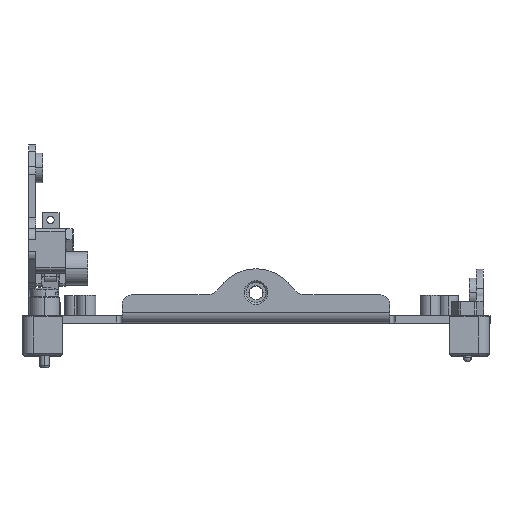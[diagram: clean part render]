
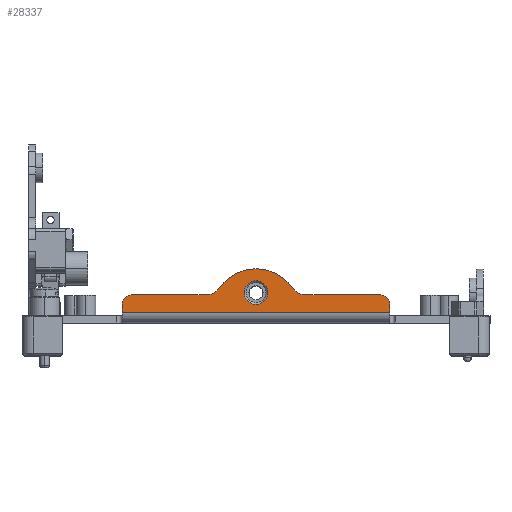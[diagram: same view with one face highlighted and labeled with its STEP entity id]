
A CAD part, top view. The second image highlights one B-rep face of the part: STEP entity #28337.
In plain terms, the highlighted planar face has unit normal (0, 0, 1).
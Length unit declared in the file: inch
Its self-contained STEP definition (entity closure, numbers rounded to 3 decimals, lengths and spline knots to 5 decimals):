
#471 = CARTESIAN_POINT ( 'NONE',  ( 1.1261, 0.15622, 1.9135 ) ) ;
#799 = CARTESIAN_POINT ( 'NONE',  ( 0., 0.25591, 1.9135 ) ) ;
#938 = CARTESIAN_POINT ( 'NONE',  ( 0.42028, 0.23622, 1.9135 ) ) ;
#1436 = CARTESIAN_POINT ( 'NONE',  ( 0.42028, 0.37307, 1.9135 ) ) ;
#1927 = LINE ( 'NONE', #938, #17248 ) ;
#2066 = DIRECTION ( 'NONE',  ( 0., 0., 1. ) ) ;
#2080 = EDGE_LOOP ( 'NONE', ( #21682, #26455, #33803, #8420, #16103, #12373, #30102, #31852, #32307, #31983 ) ) ;
#2185 = DIRECTION ( 'NONE',  ( 0., 0., 1. ) ) ;
#2341 = CARTESIAN_POINT ( 'NONE',  ( -0.09866, 0.25591, 1.9135 ) ) ;
#2547 = VERTEX_POINT ( 'NONE', #24408 ) ;
#2617 = CARTESIAN_POINT ( 'NONE',  ( 1.1261, 0.09, 1.9135 ) ) ;
#2785 = AXIS2_PLACEMENT_3D ( 'NONE', #10240, #31627, #13352 ) ;
#2822 = CARTESIAN_POINT ( 'NONE',  ( -1.0461, 0.23622, 1.9135 ) ) ;
#3116 = DIRECTION ( 'NONE',  ( 0., 0., 1. ) ) ;
#3728 = VERTEX_POINT ( 'NONE', #2341 ) ;
#3888 = DIRECTION ( 'NONE',  ( -1., 0., 0. ) ) ;
#4037 = VERTEX_POINT ( 'NONE', #25466 ) ;
#4501 = DIRECTION ( 'NONE',  ( -1., 0., 0. ) ) ;
#4576 = CARTESIAN_POINT ( 'NONE',  ( -0.30791, 0.29496, 1.9135 ) ) ;
#5076 = VERTEX_POINT ( 'NONE', #39715 ) ;
#5119 = PLANE ( 'NONE',  #37194 ) ;
#8420 = ORIENTED_EDGE ( 'NONE', *, *, #15082, .T. ) ;
#8604 = CARTESIAN_POINT ( 'NONE',  ( 0.30791, 0.29496, 1.9135 ) ) ;
#9260 = EDGE_CURVE ( 'NONE', #25225, #4037, #10290, .T. ) ;
#9761 = LINE ( 'NONE', #21925, #32201 ) ;
#10240 = CARTESIAN_POINT ( 'NONE',  ( 0., 0.08091, 1.9135 ) ) ;
#10290 = CIRCLE ( 'NONE', #37097, 0.08 ) ;
#10353 = AXIS2_PLACEMENT_3D ( 'NONE', #16226, #37615, #19291 ) ;
#11433 = ORIENTED_EDGE ( 'NONE', *, *, #16547, .T. ) ;
#11798 = VERTEX_POINT ( 'NONE', #19239 ) ;
#11939 = AXIS2_PLACEMENT_3D ( 'NONE', #1436, #22827, #4501 ) ;
#12349 = CIRCLE ( 'NONE', #18470, 0.09866 ) ;
#12373 = ORIENTED_EDGE ( 'NONE', *, *, #36586, .T. ) ;
#13352 = DIRECTION ( 'NONE',  ( -1., 0., 0. ) ) ;
#13546 = CARTESIAN_POINT ( 'NONE',  ( 0., 0.25591, 1.9135 ) ) ;
#14373 = CARTESIAN_POINT ( 'NONE',  ( -1.9135, 0., 1.9135 ) ) ;
#14404 = CARTESIAN_POINT ( 'NONE',  ( -1.1261, 0.23622, 1.9135 ) ) ;
#14565 = VECTOR ( 'NONE', #36991, 39.37008 ) ;
#15082 = EDGE_CURVE ( 'NONE', #18408, #11798, #28362, .T. ) ;
#15804 = DIRECTION ( 'NONE',  ( 0., 1., 0. ) ) ;
#15938 = VECTOR ( 'NONE', #36555, 39.37008 ) ;
#16103 = ORIENTED_EDGE ( 'NONE', *, *, #30021, .F. ) ;
#16226 = CARTESIAN_POINT ( 'NONE',  ( -1.0461, 0.15622, 1.9135 ) ) ;
#16547 = EDGE_CURVE ( 'NONE', #3728, #2547, #28706, .T. ) ;
#16564 = EDGE_LOOP ( 'NONE', ( #11433, #31501 ) ) ;
#16622 = DIRECTION ( 'NONE',  ( -1., 0., 0. ) ) ;
#16629 = FACE_BOUND ( 'NONE', #16564, .T. ) ;
#17248 = VECTOR ( 'NONE', #22361, 39.37008 ) ;
#18119 = EDGE_CURVE ( 'NONE', #2547, #3728, #12349, .T. ) ;
#18408 = VERTEX_POINT ( 'NONE', #32748 ) ;
#18410 = AXIS2_PLACEMENT_3D ( 'NONE', #13546, #34919, #16622 ) ;
#18470 = AXIS2_PLACEMENT_3D ( 'NONE', #799, #22224, #3888 ) ;
#19239 = CARTESIAN_POINT ( 'NONE',  ( -1.1261, 0.09, 1.9135 ) ) ;
#19291 = DIRECTION ( 'NONE',  ( -1., 0., 0. ) ) ;
#19666 = EDGE_CURVE ( 'NONE', #36215, #26139, #30298, .T. ) ;
#20316 = VERTEX_POINT ( 'NONE', #37363 ) ;
#20391 = CARTESIAN_POINT ( 'NONE',  ( -0.42028, 0.37307, 1.9135 ) ) ;
#21226 = VECTOR ( 'NONE', #35803, 39.37008 ) ;
#21462 = CARTESIAN_POINT ( 'NONE',  ( 1.0461, 0.15622, 1.9135 ) ) ;
#21471 = CARTESIAN_POINT ( 'NONE',  ( -1.1261, 0.09, 1.9135 ) ) ;
#21577 = EDGE_CURVE ( 'NONE', #4037, #20316, #1927, .T. ) ;
#21632 = CIRCLE ( 'NONE', #10353, 0.08 ) ;
#21682 = ORIENTED_EDGE ( 'NONE', *, *, #35650, .F. ) ;
#21701 = CIRCLE ( 'NONE', #11939, 0.13685 ) ;
#21925 = CARTESIAN_POINT ( 'NONE',  ( 1.1261, 0., 1.9135 ) ) ;
#22224 = DIRECTION ( 'NONE',  ( 0., 0., -1. ) ) ;
#22326 = VERTEX_POINT ( 'NONE', #2617 ) ;
#22361 = DIRECTION ( 'NONE',  ( -1., 0., 0. ) ) ;
#22676 = LINE ( 'NONE', #21471, #14565 ) ;
#22827 = DIRECTION ( 'NONE',  ( 0., 0., 1. ) ) ;
#23489 = DIRECTION ( 'NONE',  ( -1., 0., 0. ) ) ;
#23593 = DIRECTION ( 'NONE',  ( -1., 0., 0. ) ) ;
#24134 = AXIS2_PLACEMENT_3D ( 'NONE', #20391, #2066, #23489 ) ;
#24408 = CARTESIAN_POINT ( 'NONE',  ( 0.09866, 0.25591, 1.9135 ) ) ;
#24550 = DIRECTION ( 'NONE',  ( -1., 0., 0. ) ) ;
#25225 = VERTEX_POINT ( 'NONE', #471 ) ;
#25466 = CARTESIAN_POINT ( 'NONE',  ( 1.0461, 0.23622, 1.9135 ) ) ;
#26139 = VERTEX_POINT ( 'NONE', #8604 ) ;
#26455 = ORIENTED_EDGE ( 'NONE', *, *, #30408, .T. ) ;
#28337 = ADVANCED_FACE ( 'NONE', ( #16629, #32867 ), #5119, .T. ) ;
#28362 = LINE ( 'NONE', #14404, #21226 ) ;
#28706 = CIRCLE ( 'NONE', #18410, 0.09866 ) ;
#30021 = EDGE_CURVE ( 'NONE', #22326, #11798, #22676, .T. ) ;
#30102 = ORIENTED_EDGE ( 'NONE', *, *, #9260, .T. ) ;
#30298 = CIRCLE ( 'NONE', #2785, 0.375 ) ;
#30408 = EDGE_CURVE ( 'NONE', #5076, #32744, #39398, .T. ) ;
#30588 = EDGE_CURVE ( 'NONE', #32744, #18408, #21632, .T. ) ;
#31501 = ORIENTED_EDGE ( 'NONE', *, *, #18119, .T. ) ;
#31627 = DIRECTION ( 'NONE',  ( 0., 0., -1. ) ) ;
#31852 = ORIENTED_EDGE ( 'NONE', *, *, #21577, .T. ) ;
#31983 = ORIENTED_EDGE ( 'NONE', *, *, #19666, .F. ) ;
#32201 = VECTOR ( 'NONE', #15804, 39.37008 ) ;
#32307 = ORIENTED_EDGE ( 'NONE', *, *, #38948, .F. ) ;
#32744 = VERTEX_POINT ( 'NONE', #2822 ) ;
#32748 = CARTESIAN_POINT ( 'NONE',  ( -1.1261, 0.15622, 1.9135 ) ) ;
#32867 = FACE_OUTER_BOUND ( 'NONE', #2080, .T. ) ;
#33803 = ORIENTED_EDGE ( 'NONE', *, *, #30588, .T. ) ;
#34919 = DIRECTION ( 'NONE',  ( 0., 0., -1. ) ) ;
#35190 = CIRCLE ( 'NONE', #24134, 0.13685 ) ;
#35650 = EDGE_CURVE ( 'NONE', #5076, #36215, #35190, .T. ) ;
#35803 = DIRECTION ( 'NONE',  ( 0., -1., 0. ) ) ;
#36215 = VERTEX_POINT ( 'NONE', #4576 ) ;
#36555 = DIRECTION ( 'NONE',  ( -1., 0., 0. ) ) ;
#36586 = EDGE_CURVE ( 'NONE', #22326, #25225, #9761, .T. ) ;
#36991 = DIRECTION ( 'NONE',  ( -1., 0., 0. ) ) ;
#37097 = AXIS2_PLACEMENT_3D ( 'NONE', #21462, #3116, #24550 ) ;
#37194 = AXIS2_PLACEMENT_3D ( 'NONE', #14373, #2185, #23593 ) ;
#37363 = CARTESIAN_POINT ( 'NONE',  ( 0.42028, 0.23622, 1.9135 ) ) ;
#37615 = DIRECTION ( 'NONE',  ( 0., 0., 1. ) ) ;
#38948 = EDGE_CURVE ( 'NONE', #26139, #20316, #21701, .T. ) ;
#39398 = LINE ( 'NONE', #39659, #15938 ) ;
#39659 = CARTESIAN_POINT ( 'NONE',  ( -1.9135, 0.23622, 1.9135 ) ) ;
#39715 = CARTESIAN_POINT ( 'NONE',  ( -0.42028, 0.23622, 1.9135 ) ) ;
